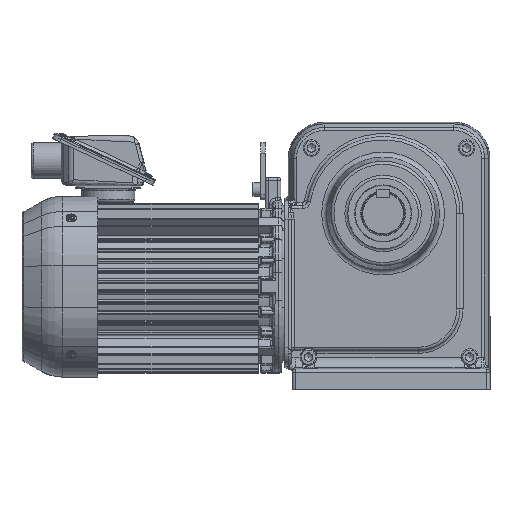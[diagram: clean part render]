
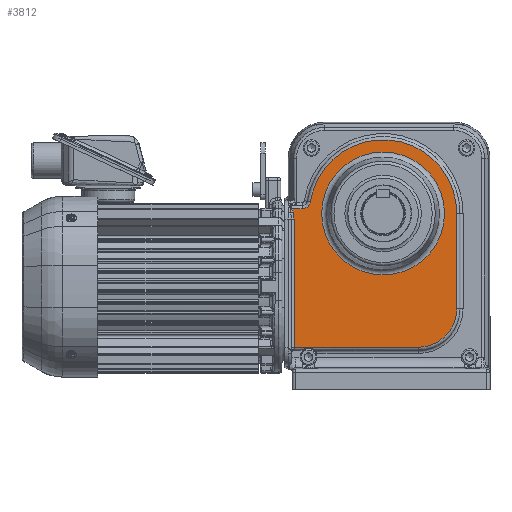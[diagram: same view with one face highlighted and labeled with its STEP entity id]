
A CAD part, front view. The second image highlights one B-rep face of the part: STEP entity #3812.
In plain terms, the highlighted planar face has unit normal (0, -1, 0).
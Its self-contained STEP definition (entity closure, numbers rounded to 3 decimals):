
#3812 = ADVANCED_FACE( '', ( #9380, #9381 ), #9382, .T. );
#9380 = FACE_BOUND( '', #26797, .T. );
#9381 = FACE_OUTER_BOUND( '', #26798, .T. );
#9382 = PLANE( '', #26799 );
#26797 = EDGE_LOOP( '', ( #64121 ) );
#26798 = EDGE_LOOP( '', ( #64122, #64123, #64124, #64125, #64126, #64127, #64128, #64129, #64130 ) );
#26799 = AXIS2_PLACEMENT_3D( '', #64131, #64132, #64133 );
#64121 = ORIENTED_EDGE( '', *, *, #81243, .T. );
#64122 = ORIENTED_EDGE( '', *, *, #81244, .T. );
#64123 = ORIENTED_EDGE( '', *, *, #81245, .T. );
#64124 = ORIENTED_EDGE( '', *, *, #81246, .T. );
#64125 = ORIENTED_EDGE( '', *, *, #81247, .T. );
#64126 = ORIENTED_EDGE( '', *, *, #81248, .T. );
#64127 = ORIENTED_EDGE( '', *, *, #81249, .T. );
#64128 = ORIENTED_EDGE( '', *, *, #79567, .T. );
#64129 = ORIENTED_EDGE( '', *, *, #80972, .T. );
#64130 = ORIENTED_EDGE( '', *, *, #81250, .T. );
#64131 = CARTESIAN_POINT( '', ( -180.993, -281.384, 182.575 ) );
#64132 = DIRECTION( '', ( 0., -1., 0. ) );
#64133 = DIRECTION( '', ( 0., 0., -1. ) );
#79567 = EDGE_CURVE( '', #88827, #88825, #88828, .F. );
#80972 = EDGE_CURVE( '', #88825, #91044, #91046, .T. );
#81243 = EDGE_CURVE( '', #91494, #91494, #91495, .F. );
#81244 = EDGE_CURVE( '', #91496, #91497, #91498, .F. );
#81245 = EDGE_CURVE( '', #91497, #91499, #91500, .T. );
#81246 = EDGE_CURVE( '', #91499, #91501, #91502, .T. );
#81247 = EDGE_CURVE( '', #91501, #91503, #91504, .T. );
#81248 = EDGE_CURVE( '', #91503, #91505, #91506, .F. );
#81249 = EDGE_CURVE( '', #91505, #88827, #91507, .T. );
#81250 = EDGE_CURVE( '', #91044, #91496, #91508, .F. );
#88825 = VERTEX_POINT( '', #106570 );
#88827 = VERTEX_POINT( '', #106572 );
#88828 = LINE( '', #106573, #106574 );
#91044 = VERTEX_POINT( '', #112318 );
#91046 = CIRCLE( '', #112320, 71. );
#91494 = VERTEX_POINT( '', #113294 );
#91495 = CIRCLE( '', #113295, 59.195 );
#91496 = VERTEX_POINT( '', #113296 );
#91497 = VERTEX_POINT( '', #113297 );
#91498 = LINE( '', #113298, #113299 );
#91499 = VERTEX_POINT( '', #113300 );
#91500 = B_SPLINE_CURVE_WITH_KNOTS( '', 3, ( #113301, #113302, #113303, #113304, #113305, #113306, #113307, #113308, #113309, #113310, #113311, #113312, #113313, #113314, #113315, #113316, #113317, #113318, #113319, #113320 ), .UNSPECIFIED., .F., .F., ( 4, 1, 2, 2, 2, 2, 2, 2, 2, 1, 4 ), ( 0., 0., 0., 0.001, 0.001, 0.001, 0.002, 0.002, 0.003, 0.003, 0.004 ), .UNSPECIFIED. );
#91501 = VERTEX_POINT( '', #113321 );
#91502 = B_SPLINE_CURVE_WITH_KNOTS( '', 3, ( #113322, #113323, #113324, #113325, #113326, #113327, #113328, #113329, #113330, #113331, #113332, #113333, #113334, #113335 ), .UNSPECIFIED., .F., .F., ( 4, 2, 2, 2, 1, 1, 1, 1, 4 ), ( 0., 0.001, 0.002, 0.002, 0.003, 0.004, 0.005, 0.006, 0.007 ), .UNSPECIFIED. );
#91503 = VERTEX_POINT( '', #113336 );
#91504 = LINE( '', #113337, #113338 );
#91505 = VERTEX_POINT( '', #113339 );
#91506 = LINE( '', #113340, #113341 );
#91507 = CIRCLE( '', #113342, 37. );
#91508 = CIRCLE( '', #113343, 8. );
#106570 = CARTESIAN_POINT( '', ( -32., -281.384, 170. ) );
#106572 = CARTESIAN_POINT( '', ( -32., -281.384, 78.109 ) );
#106573 = CARTESIAN_POINT( '', ( -32., -281.384, 182.575 ) );
#106574 = VECTOR( '', #131417, 1000. );
#112318 = CARTESIAN_POINT( '', ( -173.095, -281.384, 181.302 ) );
#112320 = AXIS2_PLACEMENT_3D( '', #133405, #133406, #133407 );
#113294 = CARTESIAN_POINT( '', ( -103., -281.384, 110.805 ) );
#113295 = AXIS2_PLACEMENT_3D( '', #133929, #133930, #133931 );
#113296 = CARTESIAN_POINT( '', ( -180.993, -281.384, 174.575 ) );
#113297 = CARTESIAN_POINT( '', ( -190.484, -281.384, 174.575 ) );
#113298 = CARTESIAN_POINT( '', ( -180.993, -281.384, 174.575 ) );
#113299 = VECTOR( '', #133932, 1000. );
#113300 = CARTESIAN_POINT( '', ( -189.434, -281.384, 171.183 ) );
#113301 = CARTESIAN_POINT( '', ( -190.484, -281.384, 174.575 ) );
#113302 = CARTESIAN_POINT( '', ( -190.454, -281.384, 174.508 ) );
#113303 = CARTESIAN_POINT( '', ( -190.395, -281.384, 174.371 ) );
#113304 = CARTESIAN_POINT( '', ( -190.34, -281.384, 174.234 ) );
#113305 = CARTESIAN_POINT( '', ( -190.258, -281.384, 174.027 ) );
#113306 = CARTESIAN_POINT( '', ( -190.207, -281.384, 173.888 ) );
#113307 = CARTESIAN_POINT( '', ( -190.133, -281.384, 173.678 ) );
#113308 = CARTESIAN_POINT( '', ( -190.108, -281.384, 173.608 ) );
#113309 = CARTESIAN_POINT( '', ( -190.061, -281.384, 173.468 ) );
#113310 = CARTESIAN_POINT( '', ( -190.038, -281.384, 173.397 ) );
#113311 = CARTESIAN_POINT( '', ( -189.969, -281.384, 173.186 ) );
#113312 = CARTESIAN_POINT( '', ( -189.925, -281.384, 173.044 ) );
#113313 = CARTESIAN_POINT( '', ( -189.84, -281.384, 172.761 ) );
#113314 = CARTESIAN_POINT( '', ( -189.799, -281.384, 172.618 ) );
#113315 = CARTESIAN_POINT( '', ( -189.72, -281.384, 172.333 ) );
#113316 = CARTESIAN_POINT( '', ( -189.681, -281.384, 172.19 ) );
#113317 = CARTESIAN_POINT( '', ( -189.607, -281.384, 171.903 ) );
#113318 = CARTESIAN_POINT( '', ( -189.534, -281.384, 171.616 ) );
#113319 = CARTESIAN_POINT( '', ( -189.467, -281.384, 171.328 ) );
#113320 = CARTESIAN_POINT( '', ( -189.434, -281.384, 171.183 ) );
#113321 = CARTESIAN_POINT( '', ( -188.843, -281.384, 164.644 ) );
#113322 = CARTESIAN_POINT( '', ( -189.434, -281.384, 171.183 ) );
#113323 = CARTESIAN_POINT( '', ( -189.372, -281.384, 170.914 ) );
#113324 = CARTESIAN_POINT( '', ( -189.318, -281.384, 170.644 ) );
#113325 = CARTESIAN_POINT( '', ( -189.221, -281.384, 170.103 ) );
#113326 = CARTESIAN_POINT( '', ( -189.178, -281.384, 169.833 ) );
#113327 = CARTESIAN_POINT( '', ( -189.102, -281.384, 169.29 ) );
#113328 = CARTESIAN_POINT( '', ( -189.069, -281.384, 169.018 ) );
#113329 = CARTESIAN_POINT( '', ( -189.011, -281.384, 168.474 ) );
#113330 = CARTESIAN_POINT( '', ( -188.961, -281.384, 167.929 ) );
#113331 = CARTESIAN_POINT( '', ( -188.906, -281.384, 167.11 ) );
#113332 = CARTESIAN_POINT( '', ( -188.869, -281.384, 166.29 ) );
#113333 = CARTESIAN_POINT( '', ( -188.848, -281.384, 165.468 ) );
#113334 = CARTESIAN_POINT( '', ( -188.843, -281.384, 164.919 ) );
#113335 = CARTESIAN_POINT( '', ( -188.843, -281.384, 164.644 ) );
#113336 = CARTESIAN_POINT( '', ( -188.843, -281.384, 41.109 ) );
#113337 = CARTESIAN_POINT( '', ( -188.843, -281.384, 41.109 ) );
#113338 = VECTOR( '', #133933, 1000. );
#113339 = CARTESIAN_POINT( '', ( -69., -281.384, 41.109 ) );
#113340 = CARTESIAN_POINT( '', ( -180.993, -281.384, 41.109 ) );
#113341 = VECTOR( '', #133934, 1000. );
#113342 = AXIS2_PLACEMENT_3D( '', #133935, #133936, #133937 );
#113343 = AXIS2_PLACEMENT_3D( '', #133938, #133939, #133940 );
#131417 = DIRECTION( '', ( 0., 0., -1. ) );
#133405 = CARTESIAN_POINT( '', ( -103., -281.384, 170. ) );
#133406 = DIRECTION( '', ( 0., -1., 0. ) );
#133407 = DIRECTION( '', ( 0., 0., -1. ) );
#133929 = CARTESIAN_POINT( '', ( -103., -281.384, 170. ) );
#133930 = DIRECTION( '', ( 0., -1., 0. ) );
#133931 = DIRECTION( '', ( 0., 0., -1. ) );
#133932 = DIRECTION( '', ( 1., 0., 0. ) );
#133933 = DIRECTION( '', ( 0., 0., -1. ) );
#133934 = DIRECTION( '', ( -1., 0., 0. ) );
#133935 = CARTESIAN_POINT( '', ( -69., -281.384, 78.109 ) );
#133936 = DIRECTION( '', ( 0., -1., 0. ) );
#133937 = DIRECTION( '', ( 0., 0., -1. ) );
#133938 = CARTESIAN_POINT( '', ( -180.993, -281.384, 182.575 ) );
#133939 = DIRECTION( '', ( 0., -1., 0. ) );
#133940 = DIRECTION( '', ( 0., 0., -1. ) );
